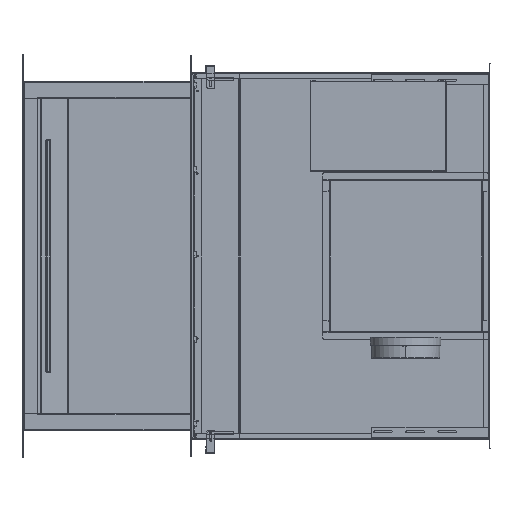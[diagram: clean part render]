
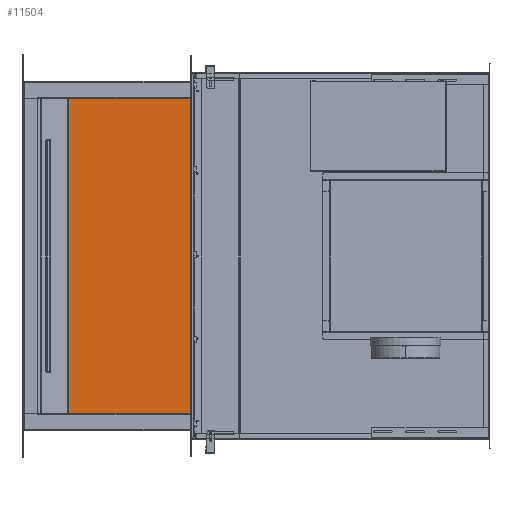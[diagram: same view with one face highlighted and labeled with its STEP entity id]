
A CAD part, left-side view. The second image highlights one B-rep face of the part: STEP entity #11504.
In plain terms, the highlighted planar face has unit normal (-1, 0, 0).
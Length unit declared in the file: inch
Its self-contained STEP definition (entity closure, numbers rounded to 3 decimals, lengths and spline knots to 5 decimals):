
#9914 = EDGE_CURVE( '', #27428, #21634, #29106, .T. );
#10508 = VERTEX_POINT( '', #29755 );
#11252 = EDGE_CURVE( '', #23466, #27428, #30581, .T. );
#11504 = ADVANCED_FACE( 'MANIFOLD_SOLID_BREP #63578', ( #30857 ), #30858, .T. );
#12516 = VERTEX_POINT( '', #31974 );
#15050 = VERTEX_POINT( '', #34772 );
#17374 = EDGE_CURVE( '', #12516, #25770, #37363, .T. );
#19504 = EDGE_CURVE( '', #28470, #23466, #39679, .T. );
#21110 = EDGE_CURVE( '', #21634, #12516, #41438, .T. );
#21634 = VERTEX_POINT( '', #42021 );
#22830 = EDGE_CURVE( '', #10508, #28470, #43350, .T. );
#23466 = VERTEX_POINT( '', #44053 );
#24724 = EDGE_CURVE( '', #25770, #15050, #45455, .T. );
#25770 = VERTEX_POINT( '', #46632 );
#27428 = VERTEX_POINT( '', #48467 );
#28450 = EDGE_CURVE( '', #15050, #10508, #49629, .T. );
#28470 = VERTEX_POINT( '', #49653 );
#29106 = LINE( '', #50521, #50522 );
#29755 = CARTESIAN_POINT( '', ( 1.04724, -0.59843, -13.47779 ) );
#30581 = LINE( '', #53135, #53136 );
#30857 = FACE_OUTER_BOUND( '', #53808, .T. );
#30858 = PLANE( '', #53809 );
#31974 = CARTESIAN_POINT( '', ( 1.04724, 10.49213, -13.47779 ) );
#34772 = CARTESIAN_POINT( '', ( 1.04724, -0.56243, -13.51378 ) );
#37363 = LINE( '', #65781, #65782 );
#39679 = LINE( '', #70341, #70342 );
#41438 = LINE( '', #73776, #73777 );
#42021 = CARTESIAN_POINT( '', ( 1.04724, 10.49213, 13.47779 ) );
#43350 = LINE( '', #77470, #77471 );
#44053 = CARTESIAN_POINT( '', ( 1.04724, -0.56243, 13.51378 ) );
#45455 = LINE( '', #81440, #81441 );
#46632 = CARTESIAN_POINT( '', ( 1.04724, 10.45613, -13.51378 ) );
#48467 = CARTESIAN_POINT( '', ( 1.04724, 10.45613, 13.51378 ) );
#49629 = LINE( '', #89189, #89190 );
#49653 = CARTESIAN_POINT( '', ( 1.04724, -0.59843, 13.47779 ) );
#50521 = CARTESIAN_POINT( '', ( 1.04724, 10.47413, 13.49578 ) );
#50522 = VECTOR( '', #90268, 0.03937 );
#53135 = CARTESIAN_POINT( '', ( 1.04724, 4.94685, 13.51378 ) );
#53136 = VECTOR( '', #91833, 0.03937 );
#53808 = EDGE_LOOP( '', ( #92125, #92126, #92127, #92128, #92129, #92130, #92131, #92132 ) );
#53809 = AXIS2_PLACEMENT_3D( '', #92133, #92134, #92135 );
#65781 = CARTESIAN_POINT( '', ( 1.04724, 10.47413, -13.49578 ) );
#65782 = VECTOR( '', #99316, 0.03937 );
#70341 = CARTESIAN_POINT( '', ( 1.04724, -0.58043, 13.49578 ) );
#70342 = VECTOR( '', #101528, 0.03937 );
#73776 = CARTESIAN_POINT( '', ( 1.04724, 10.49213, 0. ) );
#73777 = VECTOR( '', #103323, 0.03937 );
#77470 = CARTESIAN_POINT( '', ( 1.04724, -0.59843, 0. ) );
#77471 = VECTOR( '', #105511, 0.03937 );
#81440 = CARTESIAN_POINT( '', ( 1.04724, 4.94685, -13.51378 ) );
#81441 = VECTOR( '', #107832, 0.03937 );
#89189 = CARTESIAN_POINT( '', ( 1.04724, -0.58043, -13.49578 ) );
#89190 = VECTOR( '', #112778, 0.03937 );
#90268 = DIRECTION( '', ( 0., 0.707, -0.707 ) );
#91833 = DIRECTION( '', ( 0., 1., 0. ) );
#92125 = ORIENTED_EDGE( '', *, *, #22830, .T. );
#92126 = ORIENTED_EDGE( '', *, *, #19504, .T. );
#92127 = ORIENTED_EDGE( '', *, *, #11252, .T. );
#92128 = ORIENTED_EDGE( '', *, *, #9914, .T. );
#92129 = ORIENTED_EDGE( '', *, *, #21110, .T. );
#92130 = ORIENTED_EDGE( '', *, *, #17374, .T. );
#92131 = ORIENTED_EDGE( '', *, *, #24724, .T. );
#92132 = ORIENTED_EDGE( '', *, *, #28450, .T. );
#92133 = CARTESIAN_POINT( '', ( 1.04724, 4.94685, 0. ) );
#92134 = DIRECTION( '', ( -1., 0., 0. ) );
#92135 = DIRECTION( '', ( 0., 0., 1. ) );
#99316 = DIRECTION( '', ( 0., -0.707, -0.707 ) );
#101528 = DIRECTION( '', ( 0., 0.707, 0.707 ) );
#103323 = DIRECTION( '', ( 0., 0., -1. ) );
#105511 = DIRECTION( '', ( 0., 0., 1. ) );
#107832 = DIRECTION( '', ( 0., -1., 0. ) );
#112778 = DIRECTION( '', ( 0., -0.707, 0.707 ) );
